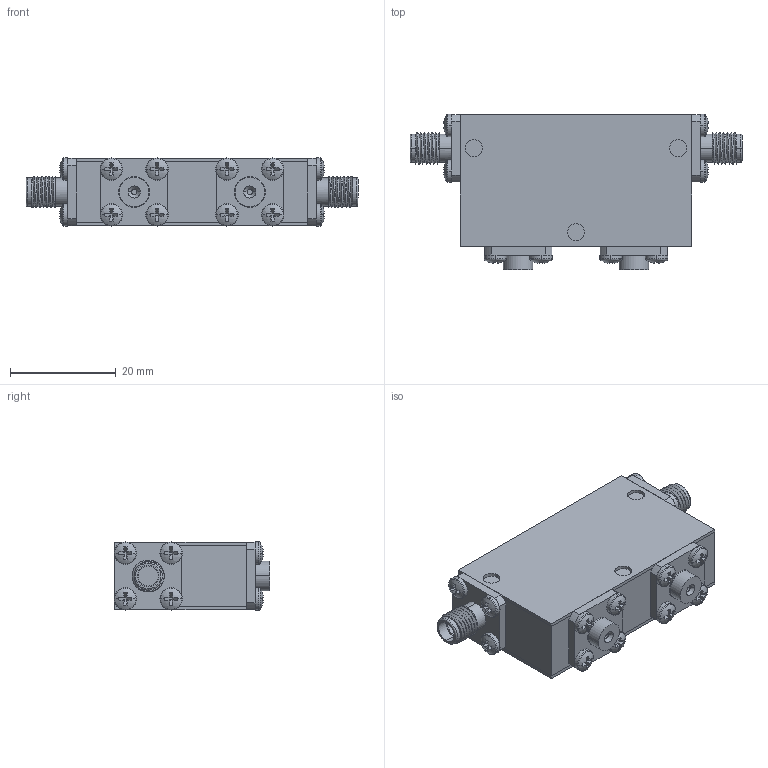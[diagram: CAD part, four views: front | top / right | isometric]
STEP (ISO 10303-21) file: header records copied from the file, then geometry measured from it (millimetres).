
FILE_DESCRIPTION (( 'STEP AP214' ), '1' );
FILE_NAME ('Package 19 Iso FF.step', '2021-12-01T20:59:13', ( '' ), ( '' ), 'SwSTEP 2.0', 'SolidWorks 2016', '' );
FILE_SCHEMA (( 'AUTOMOTIVE_DESIGN' ));
Length unit declared in the file: inch
Products named in the file (6): pan cross head_ai_CR-PHMS 0.086-56x0.125x0.125-N; Package 19; 030013-1A Same Base thickness as connectors; Package Size 19; Package 19 Iso FF; Delta SMA-Female 0.500 flange Threaded
Assembly tree (22 placements, depth 2):
  Package 19 Iso FF
    Package 19
    Delta SMA-Female 0.500 flange Threaded  x2
    pan cross head_ai_CR-PHMS 0.086-56x0.125x0.125-N  x16
    030013-1A Same Base thickness as connectors  x2
    Package Size 19
Bounding box: 62.74 x 29.43 x 12.88 mm (x, y, z)
Volume: 15354.8 mm3; surface area: 12518 mm2
Topology: 22 solids, 22 shells, 538 faces, 1222 edges, 754 vertices
Faces by surface type: plane 296, cylinder 156, torus 40, sphere 32, cone 8, bspline 6
Entity records: 4805 total; most frequent: CARTESIAN_POINT 1374, DIRECTION 727, ORIENTED_EDGE 594, EDGE_CURVE 297, AXIS2_PLACEMENT_3D 294, VERTEX_POINT 191, EDGE_LOOP 160, CIRCLE 150
